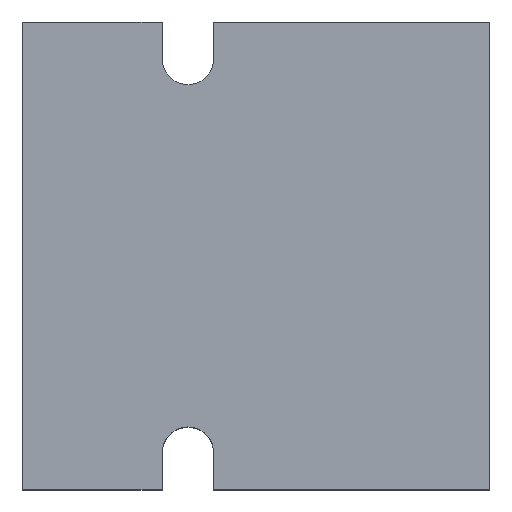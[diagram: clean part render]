
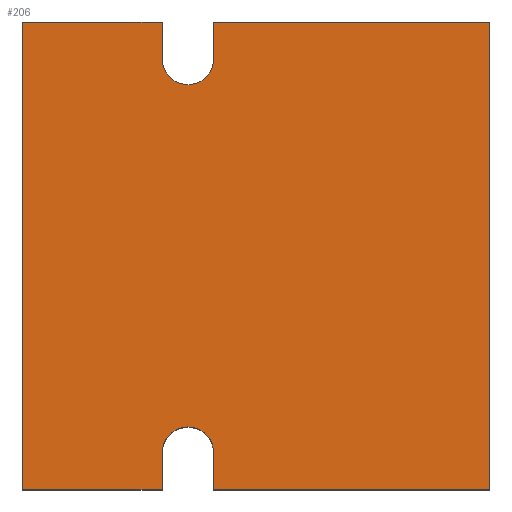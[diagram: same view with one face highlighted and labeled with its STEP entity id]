
A CAD part, top view. The second image highlights one B-rep face of the part: STEP entity #206.
In plain terms, the highlighted planar face has unit normal (0, 0, 1).
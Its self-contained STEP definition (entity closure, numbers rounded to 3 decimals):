
#206 = ADVANCED_FACE( '', ( #456 ), #457, .F. );
#456 = FACE_OUTER_BOUND( '', #735, .T. );
#457 = PLANE( '', #736 );
#735 = EDGE_LOOP( '', ( #1217, #1218, #1219, #1220, #1221, #1222, #1223, #1224, #1225, #1226, #1227, #1228 ) );
#736 = AXIS2_PLACEMENT_3D( '', #1229, #1230, #1231 );
#1217 = ORIENTED_EDGE( '', *, *, #1688, .F. );
#1218 = ORIENTED_EDGE( '', *, *, #1692, .F. );
#1219 = ORIENTED_EDGE( '', *, *, #1578, .F. );
#1220 = ORIENTED_EDGE( '', *, *, #1548, .F. );
#1221 = ORIENTED_EDGE( '', *, *, #1597, .F. );
#1222 = ORIENTED_EDGE( '', *, *, #1693, .F. );
#1223 = ORIENTED_EDGE( '', *, *, #1655, .F. );
#1224 = ORIENTED_EDGE( '', *, *, #1694, .T. );
#1225 = ORIENTED_EDGE( '', *, *, #1695, .T. );
#1226 = ORIENTED_EDGE( '', *, *, #1552, .T. );
#1227 = ORIENTED_EDGE( '', *, *, #1696, .F. );
#1228 = ORIENTED_EDGE( '', *, *, #1697, .F. );
#1229 = CARTESIAN_POINT( '', ( 0., 0., 38.1 ) );
#1230 = DIRECTION( '', ( 0., 0., -1. ) );
#1231 = DIRECTION( '', ( -1., 0., 0. ) );
#1548 = EDGE_CURVE( '', #1832, #1834, #1835, .T. );
#1552 = EDGE_CURVE( '', #1841, #1839, #1842, .T. );
#1578 = EDGE_CURVE( '', #1834, #1881, #1882, .T. );
#1597 = EDGE_CURVE( '', #1909, #1832, #1911, .T. );
#1655 = EDGE_CURVE( '', #2005, #2007, #2008, .T. );
#1688 = EDGE_CURVE( '', #2052, #2055, #2056, .T. );
#1692 = EDGE_CURVE( '', #1881, #2052, #2061, .T. );
#1693 = EDGE_CURVE( '', #2007, #1909, #2062, .T. );
#1694 = EDGE_CURVE( '', #2005, #2063, #2064, .T. );
#1695 = EDGE_CURVE( '', #2063, #1841, #2065, .T. );
#1696 = EDGE_CURVE( '', #2066, #1839, #2067, .T. );
#1697 = EDGE_CURVE( '', #2055, #2066, #2068, .T. );
#1832 = VERTEX_POINT( '', #2238 );
#1834 = VERTEX_POINT( '', #2241 );
#1835 = LINE( '', #2242, #2243 );
#1839 = VERTEX_POINT( '', #2248 );
#1841 = VERTEX_POINT( '', #2251 );
#1842 = LINE( '', #2252, #2253 );
#1881 = VERTEX_POINT( '', #2339 );
#1882 = CIRCLE( '', #2340, 3.5 );
#1909 = VERTEX_POINT( '', #2419 );
#1911 = LINE( '', #2422, #2423 );
#2005 = VERTEX_POINT( '', #2637 );
#2007 = VERTEX_POINT( '', #2640 );
#2008 = LINE( '', #2641, #2642 );
#2052 = VERTEX_POINT( '', #2786 );
#2055 = VERTEX_POINT( '', #2790 );
#2056 = LINE( '', #2791, #2792 );
#2061 = LINE( '', #2799, #2800 );
#2062 = LINE( '', #2801, #2802 );
#2063 = VERTEX_POINT( '', #2803 );
#2064 = LINE( '', #2804, #2805 );
#2065 = CIRCLE( '', #2806, 3.5 );
#2066 = VERTEX_POINT( '', #2807 );
#2067 = LINE( '', #2808, #2809 );
#2068 = LINE( '', #2810, #2811 );
#2238 = CARTESIAN_POINT( '', ( -5.75, -31.75, 38.1 ) );
#2241 = CARTESIAN_POINT( '', ( -5.75, -26.75, 38.1 ) );
#2242 = CARTESIAN_POINT( '', ( -5.75, -26.75, 38.1 ) );
#2243 = VECTOR( '', #2958, 1000. );
#2248 = CARTESIAN_POINT( '', ( -12.75, 31.75, 38.1 ) );
#2251 = CARTESIAN_POINT( '', ( -12.75, 26.75, 38.1 ) );
#2252 = CARTESIAN_POINT( '', ( -12.75, 26.75, 38.1 ) );
#2253 = VECTOR( '', #2961, 1000. );
#2339 = CARTESIAN_POINT( '', ( -12.75, -26.75, 38.1 ) );
#2340 = AXIS2_PLACEMENT_3D( '', #2987, #2988, #2989 );
#2419 = CARTESIAN_POINT( '', ( 31.75, -31.75, 38.1 ) );
#2422 = CARTESIAN_POINT( '', ( 31.75, -31.75, 38.1 ) );
#2423 = VECTOR( '', #3007, 1000. );
#2637 = CARTESIAN_POINT( '', ( -5.75, 31.75, 38.1 ) );
#2640 = CARTESIAN_POINT( '', ( 31.75, 31.75, 38.1 ) );
#2641 = CARTESIAN_POINT( '', ( -31.75, 31.75, 38.1 ) );
#2642 = VECTOR( '', #3032, 1000. );
#2786 = CARTESIAN_POINT( '', ( -12.75, -31.75, 38.1 ) );
#2790 = CARTESIAN_POINT( '', ( -31.75, -31.75, 38.1 ) );
#2791 = CARTESIAN_POINT( '', ( 31.75, -31.75, 38.1 ) );
#2792 = VECTOR( '', #3048, 1000. );
#2799 = CARTESIAN_POINT( '', ( -12.75, -26.75, 38.1 ) );
#2800 = VECTOR( '', #3051, 1000. );
#2801 = CARTESIAN_POINT( '', ( 31.75, 31.75, 38.1 ) );
#2802 = VECTOR( '', #3052, 1000. );
#2803 = CARTESIAN_POINT( '', ( -5.75, 26.75, 38.1 ) );
#2804 = CARTESIAN_POINT( '', ( -5.75, 26.75, 38.1 ) );
#2805 = VECTOR( '', #3053, 1000. );
#2806 = AXIS2_PLACEMENT_3D( '', #3054, #3055, #3056 );
#2807 = CARTESIAN_POINT( '', ( -31.75, 31.75, 38.1 ) );
#2808 = CARTESIAN_POINT( '', ( -31.75, 31.75, 38.1 ) );
#2809 = VECTOR( '', #3057, 1000. );
#2810 = CARTESIAN_POINT( '', ( -31.75, -31.75, 38.1 ) );
#2811 = VECTOR( '', #3058, 1000. );
#2958 = DIRECTION( '', ( 0., 1., 0. ) );
#2961 = DIRECTION( '', ( 0., 1., 0. ) );
#2987 = CARTESIAN_POINT( '', ( -9.25, -26.75, 38.1 ) );
#2988 = DIRECTION( '', ( 0., 0., 1. ) );
#2989 = DIRECTION( '', ( 1., 0., 0. ) );
#3007 = DIRECTION( '', ( -1., 0., 0. ) );
#3032 = DIRECTION( '', ( 1., 0., 0. ) );
#3048 = DIRECTION( '', ( -1., 0., 0. ) );
#3051 = DIRECTION( '', ( 0., -1., 0. ) );
#3052 = DIRECTION( '', ( 0., -1., 0. ) );
#3053 = DIRECTION( '', ( 0., -1., 0. ) );
#3054 = CARTESIAN_POINT( '', ( -9.25, 26.75, 38.1 ) );
#3055 = DIRECTION( '', ( 0., 0., -1. ) );
#3056 = DIRECTION( '', ( 1., 0., 0. ) );
#3057 = DIRECTION( '', ( 1., 0., 0. ) );
#3058 = DIRECTION( '', ( 0., 1., 0. ) );
